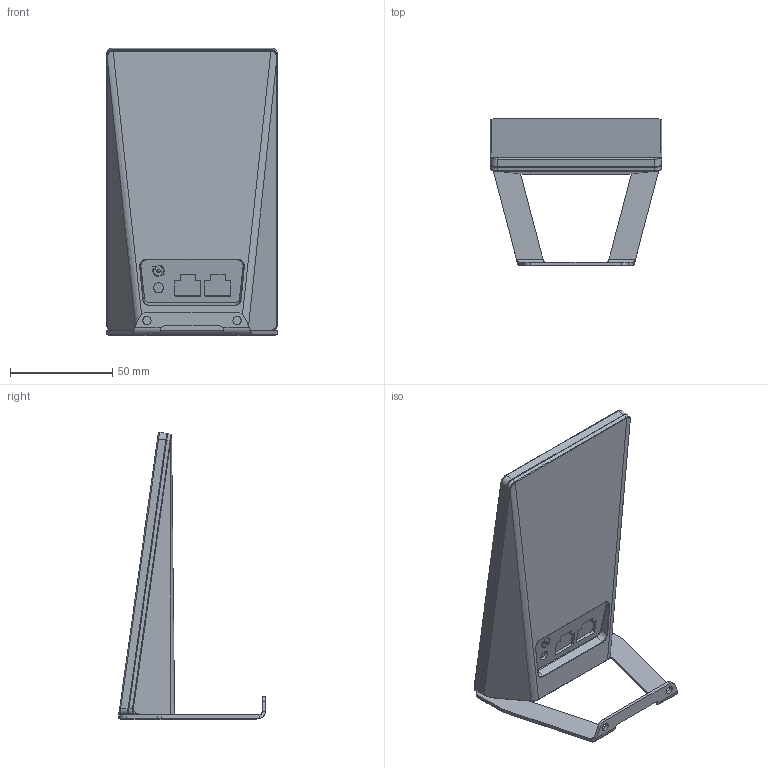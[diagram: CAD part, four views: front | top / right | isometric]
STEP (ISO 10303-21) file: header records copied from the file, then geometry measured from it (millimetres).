
FILE_DESCRIPTION(/* description */ (''),/* implementation_level */ '2;1');
FILE_NAME(/* name */ 'Starlink_Router_Mini.stp',/* time_stamp */ '2026-07-07T17:27:23-05:00',/* author */ (''),/* organization */ (''),/* preprocessor_version */ 'ST-DEVELOPER v20',/* originating_system */ 'SIEMENS PLM Software NX2406.9101',/* authorisation */ '');
FILE_SCHEMA (('AUTOMOTIVE_DESIGN { 1 0 10303 214 3 1 1 1 }'));
Length unit declared in the file: millimetre
Products named in the file (1): 644234_objects
Bounding box: 83.68 x 71.6 x 140.39 mm (x, y, z)
Volume: 55755.1 mm3; surface area: 66671.5 mm2
Topology: 3 solids, 4 shells, 310 faces, 791 edges, 490 vertices
Faces by surface type: plane 110, cylinder 93, bspline 73, cone 22, torus 8, sphere 4
Full cylindrical faces by diameter (mm): 4 x2
Entity records: 11424 total; most frequent: CARTESIAN_POINT 4228, ORIENTED_EDGE 1532, DIRECTION 1414, EDGE_CURVE 779, AXIS2_PLACEMENT_3D 513, VERTEX_POINT 487, LINE 388, VECTOR 388
